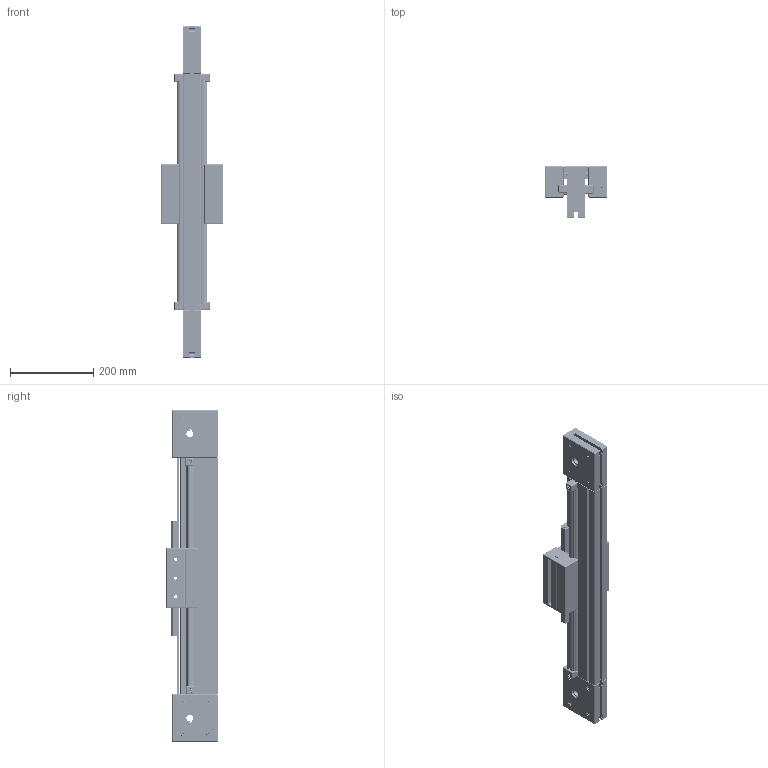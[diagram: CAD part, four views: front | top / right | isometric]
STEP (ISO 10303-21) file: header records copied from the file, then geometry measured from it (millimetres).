
FILE_DESCRIPTION (( 'STEP AP214' ), '1' );
FILE_NAME ('1.9001 Lineaariyksikkö 45 Johdeakselilla_800mm.STEP', '2026-03-26T12:48:46', ( '' ), ( '' ), 'SwSTEP 2.0', 'SolidWorks 2025', '' );
FILE_SCHEMA (( 'AUTOMOTIVE_DESIGN' ));
Length unit declared in the file: millimetre
Products named in the file (9): 1.9001 Lineaariyksikkö 45 Johdeakselilla_800mm; 1.0058 Akselin pidikeprofiili 12; Kelkka2; 1.8051 Johdeakselin lukituspala 12; TFC12; 1.8010 Vetopää 45; Belt1-6; Runko; 1.0036 45x90 profiili_Default<As Machined>
Assembly tree (14 placements, depth 3):
  1.9001 Lineaariyksikkö 45 Johdeakselilla_800mm
    Runko
      1.8010 Vetopää 45  x2
      1.8051 Johdeakselin lukituspala 12  x4
      TFC12  x2
      1.0058 Akselin pidikeprofiili 12  x2
      1.0036 45x90 profiili_Default<As Machined>
    Belt1-6
    Kelkka2
Bounding box: 150.1 x 124 x 800 mm (x, y, z)
Volume: 2755406.5 mm3; surface area: 1494159.1 mm2
Topology: 201 solids, 201 shells, 6194 faces, 16220 edges, 10222 vertices
Faces by surface type: plane 2810, cylinder 1884, bspline 708, cone 408, sphere 240, torus 144
Entity records: 210107 total; most frequent: CARTESIAN_POINT 54742, ORIENTED_EDGE 24472, DIRECTION 22140, EDGE_CURVE 12236, VERTEX_POINT 7922, AXIS2_PLACEMENT_3D 7598, LINE 6944, VECTOR 6944
